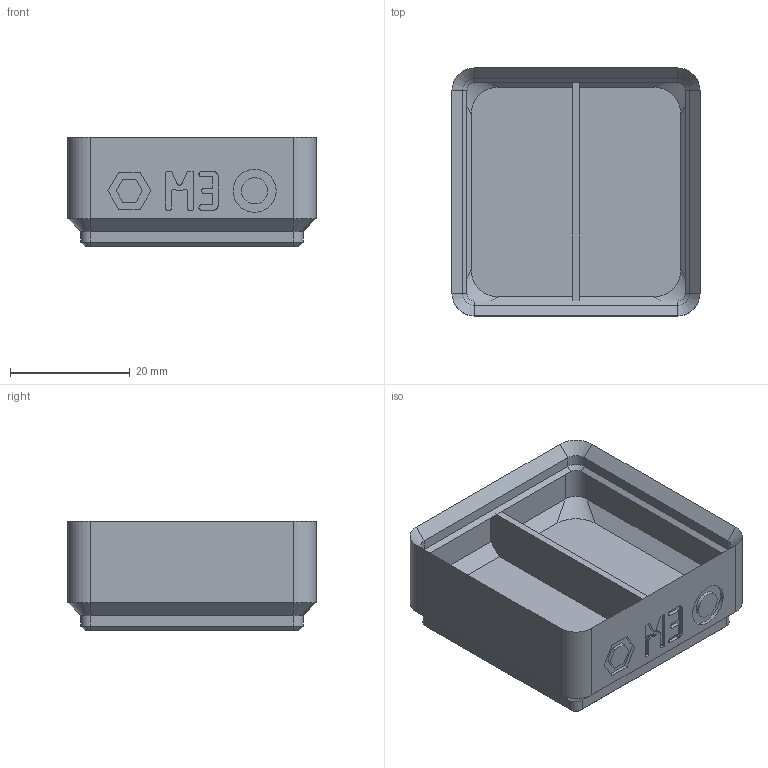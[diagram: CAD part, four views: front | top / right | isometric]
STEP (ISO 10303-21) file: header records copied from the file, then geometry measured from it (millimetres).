
FILE_DESCRIPTION(('Open CASCADE Model'),'2;1');
FILE_NAME('bin_nut_wshr_m3','2026-11-03T16:47:47',('Author'),( 'Open CASCADE'),'Open CASCADE STEP processor 8.0','build123d', 'Unknown');
FILE_SCHEMA(('AUTOMOTIVE_DESIGN { 1 0 10303 214 1 1 1 1 }'));
Length unit declared in the file: millimetre
Products named in the file (1): bin_nut_wshr_m3
Bounding box: 41.5 x 41.5 x 18.4 mm (x, y, z)
Volume: 11368.3 mm3; surface area: 8909 mm2
Topology: 1 solids, 1 shells, 348 faces, 936 edges, 604 vertices
Faces by surface type: plane 296, cylinder 26, cone 16, bspline 10
Full cylindrical faces by diameter (mm): 3.2 x4, 4.4 x1, 6.5 x4, 7.2 x1
Entity records: 22322 total; most frequent: CARTESIAN_POINT 4649, DIRECTION 2874, LINE 2038, VECTOR 2038, ORIENTED_EDGE 1872, PCURVE 1872, DEFINITIONAL_REPRESENTATION 1872, EDGE_CURVE 936
